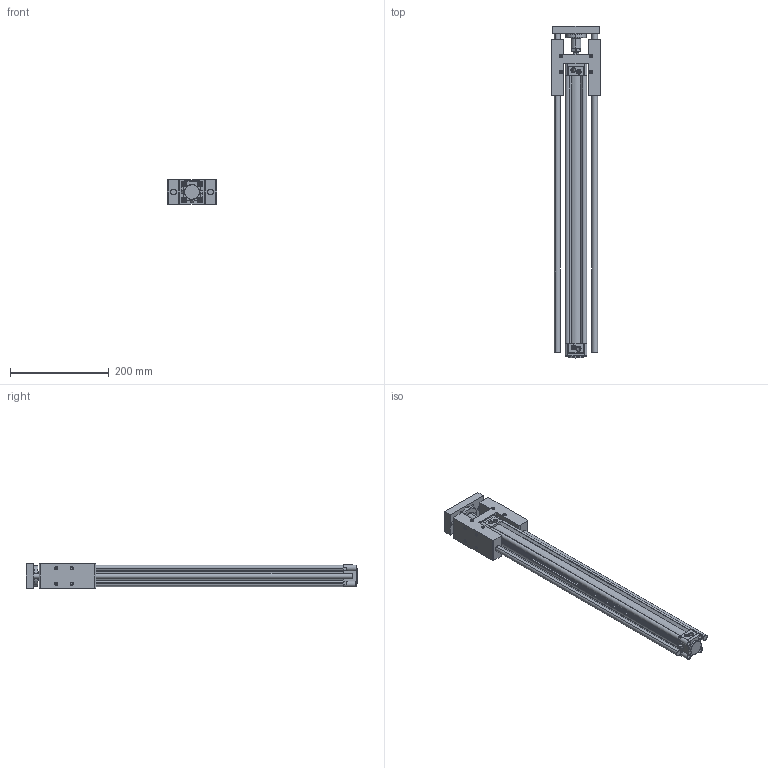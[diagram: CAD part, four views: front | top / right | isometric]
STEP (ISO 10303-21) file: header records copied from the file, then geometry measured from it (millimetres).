
FILE_DESCRIPTION (( 'STEP AP203' ), '1' );
FILE_NAME ('KDNT32X500H-YATAK.STEP', '2016-05-17T10:36:17', ( 'user' ), ( '' ), 'SwSTEP 2.0', 'SolidWorks 2013', '' );
FILE_SCHEMA (( 'CONFIG_CONTROL_DESIGN' ));
Length unit declared in the file: millimetre
Products named in the file (11): ORTA P¦STON; DNC-H-YATAK 32; KDNT Piston Mili 32X500; DNC-H-M尳 32X500; KDNT32X500H-YATAK; DNC-H-YATAK TABLA 32; DNC-H-YATAK MÝL YATAÐI 32; SOMUN; ARKA KAPAK; 泩 KAPAK; KDNT 32x500 BORU
Assembly tree (11 placements, depth 2):
  KDNT32X500H-YATAK
    DNC-H-YATAK 32
    DNC-H-M尳 32X500  x2
    DNC-H-YATAK TABLA 32
    DNC-H-YATAK MÝL YATAÐI 32
    SOMUN
    ARKA KAPAK
    泩 KAPAK
    KDNT 32x500 BORU
    ORTA P¦STON
    KDNT Piston Mili 32X500
Bounding box: 101 x 673.4 x 50.5 mm (x, y, z)
Volume: 971895.3 mm3; surface area: 399471.5 mm2
Topology: 13 solids, 14 shells, 936 faces, 2276 edges, 1432 vertices
Faces by surface type: cylinder 377, plane 250, cone 179, bspline 120, torus 10
Entity records: 41297 total; most frequent: CARTESIAN_POINT 18983, ORIENTED_EDGE 4508, DIRECTION 4240, EDGE_CURVE 2254, AXIS2_PLACEMENT_3D 1678, VERTEX_POINT 1428, EDGE_LOOP 1094, ADVANCED_FACE 932
